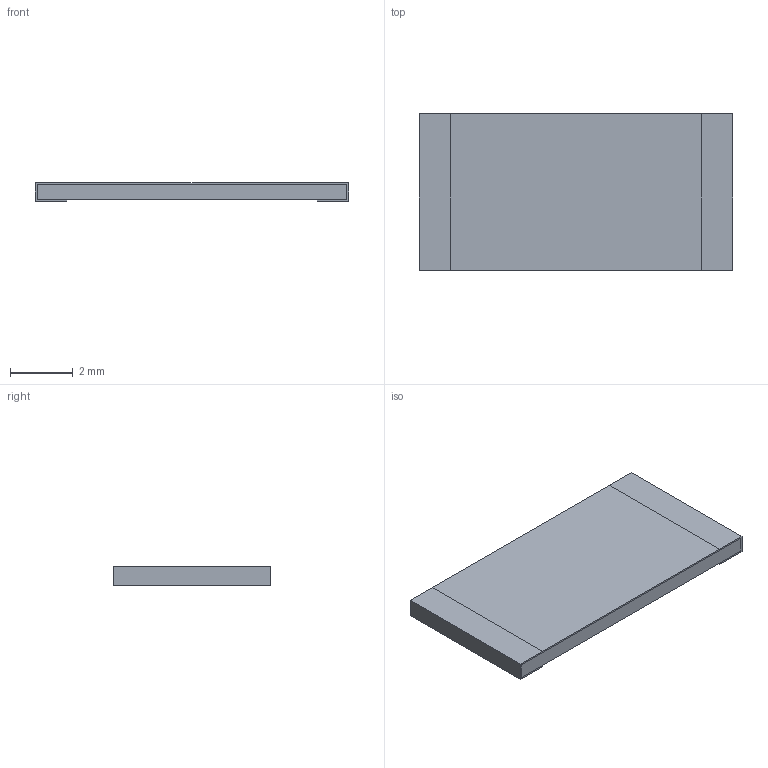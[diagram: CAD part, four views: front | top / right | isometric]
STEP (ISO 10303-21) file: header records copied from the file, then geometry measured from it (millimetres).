
FILE_DESCRIPTION(('STEP AP203'), '1');
FILE_NAME('P1-8B-4020', '', ('UNSPECIFIED'), ('UNSPECIFIED'), 'ASCON STEP Converter 1.6', 'ASCON Math Kernel', '');
FILE_SCHEMA(('CONFIG_CONTROL_DESIGN'));
Length unit declared in the file: millimetre
Bounding box: 10 x 5 x 0.6 mm (x, y, z)
Volume: 28 mm3; surface area: 246.9 mm2
Topology: 4 solids, 5 shells, 51 faces, 123 edges, 82 vertices
Faces by surface type: plane 47, cylinder 4
Entity records: 1937 total; most frequent: CARTESIAN_POINT 257, ORIENTED_EDGE 246, DIRECTION 235, EDGE_CURVE 123, LINE 115, VECTOR 115, VERTEX_POINT 82, AXIS2_PLACEMENT_3D 60
